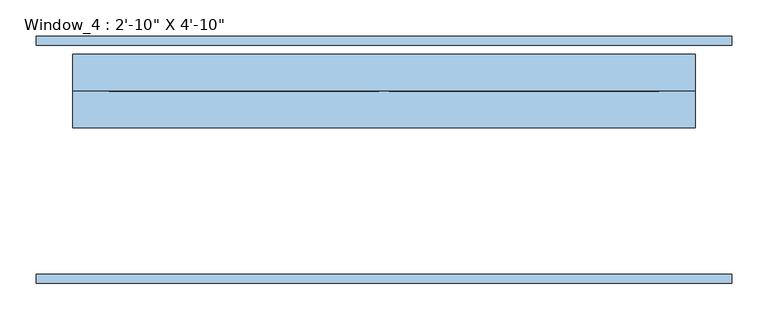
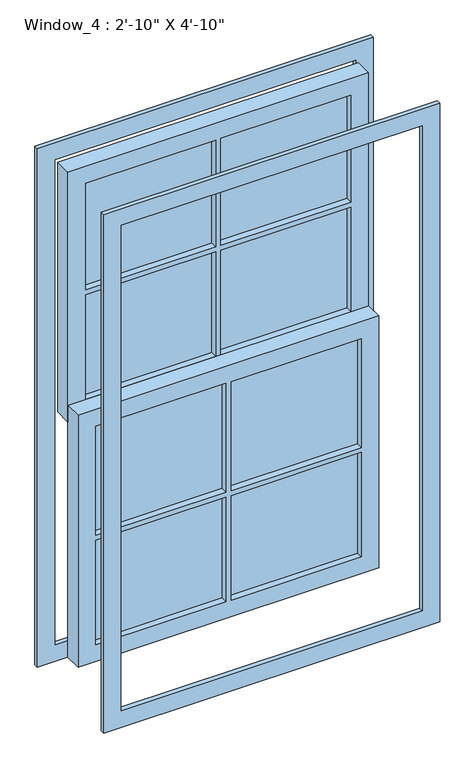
"""IFC4 building model written with IfcOpenShell, lengths in millimetres: window geometry."""

import ifcopenshell
import ifcopenshell.guid

model = None  # the IFC model being written
_history = None  # IfcOwnerHistory: only IFC2X3 demands one
_inside = {}  # id of a spatial element -> (the spatial element, [elements in it])
_under = {}  # id of a project, library or spatial element -> (it, [spatial elements below it])
_declared = {}  # id of a project -> (the project, [libraries it declares])
_typed = {}  # id of a type object -> (the type object, [elements of that type])
_made_of = {}  # id of a material, layer set ... -> (it, [elements and type objects made of it])


def new_model(schema):
    """Start an empty IFC model of exactly this schema.

    Asked for "IFC4X3", IfcOpenShell would pick the latest addendum, in which some entities
    have other attributes; the version numbers below select the first issue.
    IFC2X3 requires an IfcOwnerHistory on every rooted entity: one is made here for all.
    """
    global model, _history
    if schema == "IFC4X3":
        model = ifcopenshell.file(schema_version=(4, 3, 0, 0))
    else:
        model = ifcopenshell.file(schema=schema)
    _inside.clear()
    _under.clear()
    _declared.clear()
    _typed.clear()
    _made_of.clear()
    _history = None
    if model.schema == "IFC2X3":
        org = make("IfcOrganization", Name="unknown")
        user = make(
            "IfcPersonAndOrganization",
            ThePerson=make("IfcPerson", FamilyName="unknown"),
            TheOrganization=org,
        )
        app = make(
            "IfcApplication",
            ApplicationDeveloper=org,
            Version="unknown",
            ApplicationFullName="unknown",
            ApplicationIdentifier="unknown",
        )
        _history = make(
            "IfcOwnerHistory",
            OwningUser=user,
            OwningApplication=app,
            ChangeAction="ADDED",
            CreationDate=0,
        )
    return model


def make(cls, **values):
    """One entity of the class cls with the attributes given. An attribute that is None is left unset."""
    return model.create_entity(
        cls, **{name: value for name, value in values.items() if value is not None}
    )


def rooted(cls, **values):
    """An entity with a GlobalId (a new one), such as an element, a storey or a relation."""
    return make(cls, GlobalId=ifcopenshell.guid.new(), OwnerHistory=_history, **values)


def si_unit(unit_type, name, prefix=None):
    """IfcSIUnit, for example si_unit("LENGTHUNIT", "METRE", prefix="MILLI")."""
    return make("IfcSIUnit", UnitType=unit_type, Prefix=prefix, Name=name)


def assignment(units):
    """IfcUnitAssignment: the units of a project."""
    return None if units is None else make("IfcUnitAssignment", Units=units)


def point(xyz):
    """IfcCartesianPoint."""
    return None if xyz is None else make("IfcCartesianPoint", Coordinates=xyz)


def direction(xyz):
    """IfcDirection."""
    return None if xyz is None else make("IfcDirection", DirectionRatios=xyz)


def frame(location, z_axis=None, x_axis=None):
    """IfcAxis2Placement3D, a coordinate frame: its origin and axes. An axis left out is left unset."""
    return make(
        "IfcAxis2Placement3D",
        Location=point(location),
        Axis=direction(z_axis),
        RefDirection=direction(x_axis),
    )


def origin():
    """The frame at (0, 0, 0) with its axes left unset."""
    return frame((0.0, 0.0, 0.0))


def place(relative_to, where):
    """IfcLocalPlacement: puts the frame where relative to a parent placement (None: the world)."""
    return make(
        "IfcLocalPlacement", PlacementRelTo=relative_to, RelativePlacement=where
    )


def context(
    kind, dimensions, precision=None, world=None, true_north=None, identifier=None
):
    """IfcGeometricRepresentationContext, for example the 3D "Model" context."""
    return make(
        "IfcGeometricRepresentationContext",
        ContextIdentifier=identifier,
        ContextType=kind,
        CoordinateSpaceDimension=dimensions,
        Precision=precision,
        WorldCoordinateSystem=world,
        TrueNorth=true_north,
    )


def project(units=None, contexts=None):
    """IfcProject with its units and contexts."""
    return rooted(
        "IfcProject",
        Name="project",
        RepresentationContexts=contexts,
        UnitsInContext=assignment(units),
    )


def spatial(cls, under=None, at=None, **own):
    """A site, building, storey or space (cls), placed at a placement, below another one or the project."""
    s = rooted(cls, ObjectPlacement=at, **own)
    if under is not None:
        _under.setdefault(under.id(), (under, []))[1].append(s)
    return s


def polyline(points):
    """IfcPolyline through the points."""
    return make("IfcPolyline", Points=[point(p) for p in points])


def outline(outer, holes=None, kind="AREA"):
    """IfcArbitraryClosedProfileDef: a profile drawn as a closed curve; with holes, ...WithVoids."""
    if holes is None:
        return make("IfcArbitraryClosedProfileDef", ProfileType=kind, OuterCurve=outer)
    return make(
        "IfcArbitraryProfileDefWithVoids",
        ProfileType=kind,
        OuterCurve=outer,
        InnerCurves=holes,
    )


def extrude(swept, where, along, depth):
    """IfcExtrudedAreaSolid: the profile swept, set in the frame where, extruded along a direction by depth."""
    return make(
        "IfcExtrudedAreaSolid",
        SweptArea=swept,
        Position=where,
        ExtrudedDirection=direction(along),
        Depth=depth,
    )


def shape(context_of_items, identifier, shape_type, items):
    """IfcShapeRepresentation: the items that make up one representation, for example the "Body"."""
    return make(
        "IfcShapeRepresentation",
        ContextOfItems=context_of_items,
        RepresentationIdentifier=identifier,
        RepresentationType=shape_type,
        Items=items,
    )


def source(mapping_origin, context_of_items, identifier, shape_type, items):
    """IfcRepresentationMap: a shape defined once, which mapped items show again and again."""
    return make(
        "IfcRepresentationMap",
        MappingOrigin=mapping_origin,
        MappedRepresentation=shape(context_of_items, identifier, shape_type, items),
    )


def transform(
    local_origin,
    x_axis=None,
    y_axis=None,
    z_axis=None,
    scale=None,
    scale2=None,
    scale3=None,
    uniform=True,
):
    """IfcCartesianTransformationOperator3D, or its non-uniform kind. x_axis, y_axis, z_axis: its Axis1, 2, 3."""
    if uniform:
        return make(
            "IfcCartesianTransformationOperator3D",
            Axis1=direction(x_axis),
            Axis2=direction(y_axis),
            LocalOrigin=point(local_origin),
            Scale=scale,
            Axis3=direction(z_axis),
        )
    return make(
        "IfcCartesianTransformationOperator3DnonUniform",
        Axis1=direction(x_axis),
        Axis2=direction(y_axis),
        LocalOrigin=point(local_origin),
        Scale=scale,
        Axis3=direction(z_axis),
        Scale2=scale2,
        Scale3=scale3,
    )


def mapped(mapping_source, mapping_target):
    """IfcMappedItem: shows the shape of a source again, moved by a transform."""
    return make(
        "IfcMappedItem", MappingSource=mapping_source, MappingTarget=mapping_target
    )


def made_of(thing, what):
    """Note that an element or type object is made of a material, layer set ...; save() writes the relation."""
    if what is not None:
        _made_of.setdefault(what.id(), (what, []))[1].append(thing)
    return thing


def element(
    cls,
    number,
    at=None,
    inside=None,
    cuts=None,
    type_object=None,
    material=None,
    context=None,
    identifier="Body",
    shape_type=None,
    held_by="IfcProductDefinitionShape",
    body=None,
    shapes=None,
    **own,
):
    """One element of the class cls, such as IfcWall. Its Tag is "e" and its number.

    at: its placement. inside: the storey or other place that contains it. cuts: it is an
    opening in that element (IfcRelVoidsElement). A single representation is given by context,
    identifier, shape_type and body (its items); several are given by shapes. held_by: the class
    of the entity that holds the representations. save() writes the other relations.
    """
    e = rooted(cls, Tag="e%d" % number, ObjectPlacement=at, **own)
    if body is not None:
        shapes = [shape(context, identifier, shape_type, body)]
    if shapes is not None:
        e.Representation = make(held_by, Representations=shapes)
    if inside is not None:
        _inside.setdefault(inside.id(), (inside, []))[1].append(e)
    if cuts is not None:
        rooted(
            "IfcRelVoidsElement", RelatingBuildingElement=cuts, RelatedOpeningElement=e
        )
    if type_object is not None:
        _typed.setdefault(type_object.id(), (type_object, []))[1].append(e)
    return made_of(e, material)


def aggregate(whole, parts):
    """IfcRelAggregates: a whole, such as a stair, and the parts it consists of."""
    return rooted("IfcRelAggregates", RelatingObject=whole, RelatedObjects=parts)


def save(model, path):
    """Write the relations noted so far, then the file.

    IfcRelAggregates (storeys below a building ...), IfcRelContainedInSpatialStructure (elements
    in a storey), IfcRelDefinesByType, IfcRelAssociatesMaterial and IfcRelDeclares: one each for
    every whole, place, type object, material and project.
    """
    for whole, parts in _under.values():
        aggregate(whole, parts)
    for where, things in _inside.values():
        rooted(
            "IfcRelContainedInSpatialStructure",
            RelatedElements=things,
            RelatingStructure=where,
        )
    for kind, things in _typed.values():
        rooted("IfcRelDefinesByType", RelatedObjects=things, RelatingType=kind)
    for what, things in _made_of.values():
        rooted("IfcRelAssociatesMaterial", RelatedObjects=things, RelatingMaterial=what)
    for by, libraries in _declared.values():
        rooted("IfcRelDeclares", RelatingContext=by, RelatedDefinitions=libraries)
    model.write(path)


def window_08d0ea66(model_context):
    return source(origin(), model_context, "Body", "SweptSolid", [
        extrude(outline(polyline([(2336.8, -431.8), (1577.975, -431.8), (1577.975, 431.8), (2336.8, 431.8), (2336.8, -431.8)]), holes=[polyline([(2286.0, 7.540625), (2286.0, 381.0), (1961.35625, 381.0), (1961.35625, 7.540625), (2286.0, 7.540625)]), polyline([(1628.775, 7.540625), (1946.275, 7.540625), (1946.275, 381.0), (1628.775, 381.0), (1628.775, 7.540625)]), polyline([(1961.35625, -381.0), (2286.0, -381.0), (2286.0, -7.540625), (1961.35625, -7.540625), (1961.35625, -381.0)]), polyline([(1628.775, -381.0), (1946.275, -381.0), (1946.275, -7.540625), (1628.775, -7.540625), (1628.775, -381.0)])]), frame((0.0, 95.25, 0.0), z_axis=(0.0, 1.0, 0.0), x_axis=(0.0, 0.0, 1.0)), (0.0, 0.0, 1.0), 50.8),
        extrude(outline(polyline([(381.0, 114.3), (7.540625, 114.3), (7.540625, 127.5853592), (381.0, 127.5853592), (381.0, 114.3)])), frame((0.0, 0.0, 1961.35625), z_axis=(0.0, 0.0, 1.0), x_axis=(1.0, 0.0, 0.0)), (0.0, 0.0, 1.0), 324.64375),
        extrude(outline(polyline([(-7.540625, 114.3), (-381.0, 114.3), (-381.0, 127.5853592), (-7.540625, 127.5853592), (-7.540625, 114.3)])), frame((0.0, 0.0, 1961.35625), z_axis=(0.0, 0.0, 1.0), x_axis=(1.0, 0.0, 0.0)), (0.0, 0.0, 1.0), 324.64375),
        extrude(outline(polyline([(381.0, 114.3), (7.540625, 114.3), (7.540625, 127.5853592), (381.0, 127.5853592), (381.0, 114.3)])), frame((0.0, 0.0, 1628.775), z_axis=(0.0, 0.0, 1.0), x_axis=(1.0, 0.0, 0.0)), (0.0, 0.0, 1.0), 317.5),
        extrude(outline(polyline([(-7.540625, 114.3), (-381.0, 114.3), (-381.0, 127.5853592), (-7.540625, 127.5853592), (-7.540625, 114.3)])), frame((0.0, 0.0, 1628.775), z_axis=(0.0, 0.0, 1.0), x_axis=(1.0, 0.0, 0.0)), (0.0, 0.0, 1.0), 317.5),
        extrude(outline(polyline([(7.540625, 76.2), (381.0, 76.2), (381.0, 63.5), (7.540625, 63.5), (7.540625, 76.2)])), frame((0.0, 0.0, 914.4), z_axis=(0.0, 0.0, 1.0), x_axis=(1.0, 0.0, 0.0)), (0.0, 0.0, 1.0), 317.5),
        extrude(outline(polyline([(-381.0, 76.2), (-7.540625, 76.2), (-7.540625, 63.5), (-381.0, 63.5), (-381.0, 76.2)])), frame((0.0, 0.0, 1246.98125), z_axis=(0.0, 0.0, 1.0), x_axis=(1.0, 0.0, 0.0)), (0.0, 0.0, 1.0), 330.99375),
        extrude(outline(polyline([(-381.0, 76.2), (-7.540625, 76.2), (-7.540625, 63.5), (-381.0, 63.5), (-381.0, 76.2)])), frame((0.0, 0.0, 914.4), z_axis=(0.0, 0.0, 1.0), x_axis=(1.0, 0.0, 0.0)), (0.0, 0.0, 1.0), 317.5),
        extrude(outline(polyline([(7.540625, 76.2), (381.0, 76.2), (381.0, 63.5), (7.540625, 63.5), (7.540625, 76.2)])), frame((0.0, 0.0, 1246.98125), z_axis=(0.0, 0.0, 1.0), x_axis=(1.0, 0.0, 0.0)), (0.0, 0.0, 1.0), 330.99375),
        extrude(outline(polyline([(1628.775, -431.8), (863.6, -431.8), (863.6, 431.8), (1628.775, 431.8), (1628.775, -431.8)]), holes=[polyline([(914.4, 7.540625), (1231.9, 7.540625), (1231.9, 381.0), (914.4, 381.0), (914.4, 7.540625)]), polyline([(1246.98125, -381.0), (1577.975, -381.0), (1577.975, -7.540625), (1246.98125, -7.540625), (1246.98125, -381.0)]), polyline([(914.4, -381.0), (1231.9, -381.0), (1231.9, -7.540625), (914.4, -7.540625), (914.4, -381.0)]), polyline([(1577.975, 7.540625), (1577.975, 381.0), (1246.98125, 381.0), (1246.98125, 7.540625), (1577.975, 7.540625)])]), frame((0.0, 44.45, 0.0), z_axis=(0.0, 1.0, 0.0), x_axis=(0.0, 0.0, 1.0)), (0.0, 0.0, 1.0), 50.8),
        extrude(outline(polyline([(812.8, 482.6), (2387.6, 482.6), (2387.6, -482.6), (812.8, -482.6), (812.8, 482.6)]), holes=[polyline([(863.6, 431.8), (863.6, -431.8), (2336.8, -431.8), (2336.8, 431.8), (863.6, 431.8)])]), frame((0.0, -171.45, 0.0), z_axis=(0.0, 1.0, 0.0), x_axis=(0.0, 0.0, 1.0)), (0.0, 0.0, 1.0), 12.7),
        extrude(outline(polyline([(812.8, 482.6), (2387.6, 482.6), (2387.6, -482.6), (812.8, -482.6), (812.8, 482.6)]), holes=[polyline([(863.6, 431.8), (863.6, -431.8), (2336.8, -431.8), (2336.8, 431.8), (863.6, 431.8)])]), frame((0.0, 158.75, 0.0), z_axis=(0.0, 1.0, 0.0), x_axis=(0.0, 0.0, 1.0)), (0.0, 0.0, 1.0), 12.7),
    ])


if __name__ == "__main__":
    model = new_model("IFC4")
    model_context = context("Model", 3, world=origin())
    ifc_project = project(units=[si_unit("LENGTHUNIT", "METRE", prefix="MILLI")], contexts=[model_context])
    site = spatial("IfcSite", under=ifc_project)
    building = spatial("IfcBuilding", under=site)
    placement = place(None, origin())
    window_shape = window_08d0ea66(model_context)
    element("IfcWindow", 1, ObjectType="Window_4 : 2'-10\" X 4'-10\"", at=placement, inside=building, context=model_context, shape_type="MappedRepresentation", body=[
        mapped(window_shape, transform((0.0, 0.0, 0.0), x_axis=(1.0, 0.0, 0.0), y_axis=(0.0, 1.0, 0.0), z_axis=(0.0, 0.0, 1.0))),
    ])
    save(model, "model.ifc")
